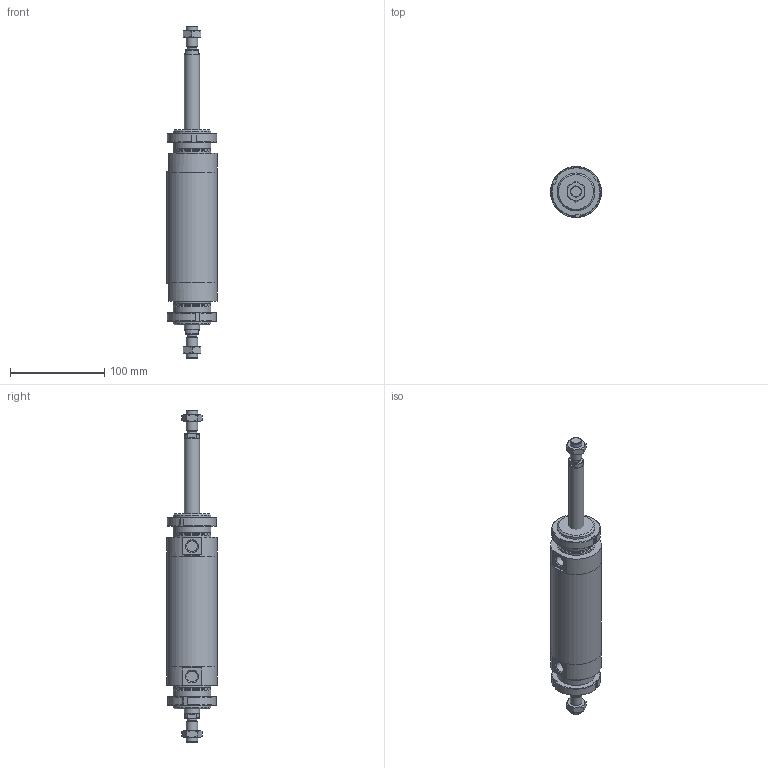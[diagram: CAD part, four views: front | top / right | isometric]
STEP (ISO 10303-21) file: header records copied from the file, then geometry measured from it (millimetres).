
FILE_DESCRIPTION(/* description */ (''),/* implementation_level */ '2;1');
FILE_NAME(/* name */ 'I:\Area Tecnica\Documenti\A-Manieri\_Inventor\12X\12X#S_###_####_#_#\12XCS_050_0075_#_#.stp',/* time_stamp */ '2015-05-08T14:18:37+02:00',/* author */ ('maniean1'),/* organization */ ('Pneumax S.p.A.'),/* preprocessor_version */ 'ST-DEVELOPER v15.2',/* originating_system */ 'Autodesk Inventor 2014',/* authorisation */ '');
FILE_SCHEMA (('AUTOMOTIVE_DESIGN { 1 0 10303 214 3 1 1 }'));
Length unit declared in the file: millimetre
Products named in the file (6): C1250_619-0075; 12X50_604; SP12X50_0075; 12X_50_11; G12X_050_05; 12XCS_050_0075_#_#
Bounding box: 54 x 54 x 352 mm (x, y, z)
Volume: 333004.9 mm3; surface area: 101086.9 mm2
Topology: 8 solids, 8 shells, 133 faces, 303 edges, 194 vertices
Faces by surface type: plane 66, cone 34, cylinder 33
Full cylindrical faces by diameter (mm): 10.2 x2, 11.4 x2, 12 x4, 14 x2, 15.6 x2, 16 x2, 38.2 x2, 40 x6, 50 x2, 54 x3
Entity records: 2300 total; most frequent: CARTESIAN_POINT 435, DIRECTION 388, ORIENTED_EDGE 310, AXIS2_PLACEMENT_3D 166, EDGE_CURVE 155, EDGE_LOOP 130, VERTEX_POINT 117, ADVANCED_FACE 85
